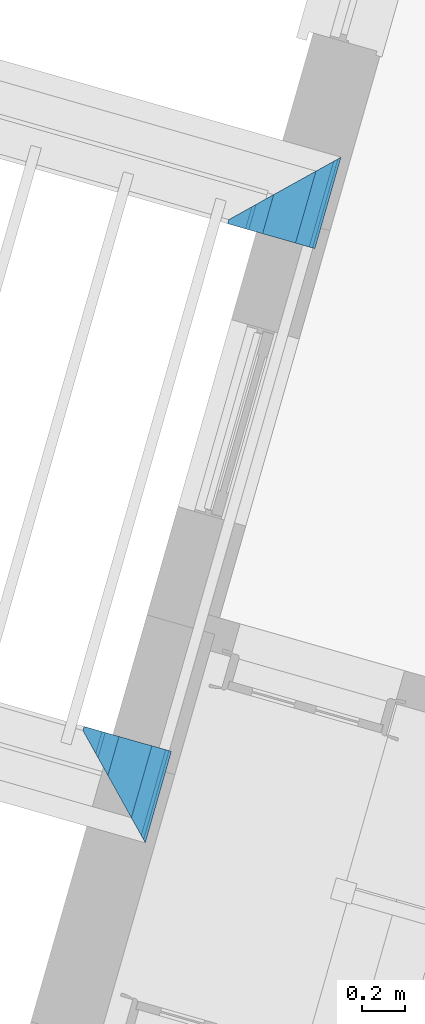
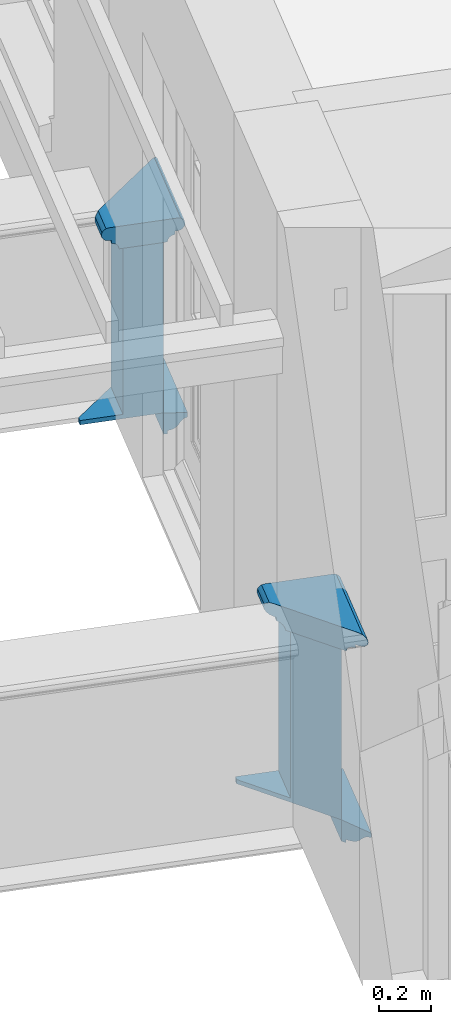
# One storey, part 5 of 6: 6 walls.
"""IFC4 building model written with IfcOpenShell, lengths in metres."""

from ifc_helpers import new_model, si_unit, frame, origin_with_axes, place, context, subcontext, project, spatial, polyline, outline, extrude, clip, halfspace, material_profile, profile_set, profile_usage, type_object, element, save


model = new_model("IFC4")

# Units and contexts
model_context = context("Model", 3, world=origin_with_axes())
body_context = subcontext(model_context, "Body", "Model", "MODEL_VIEW")
ifc_project = project(units=[si_unit("PLANEANGLEUNIT", "RADIAN"), si_unit("MASSUNIT", "GRAM", prefix="KILO"), si_unit("FORCEUNIT", "NEWTON", prefix="KILO"), si_unit("LENGTHUNIT", "METRE"), si_unit("AREAUNIT", "SQUARE_METRE"), si_unit("VOLUMEUNIT", "CUBIC_METRE")], contexts=[model_context, model_context])

# Sites, building, storey
site_1_placement = place(None, origin_with_axes())
site_1 = spatial("IfcSite", under=ifc_project, at=site_1_placement, Name="Tamar")
site_2_placement = place(site_1_placement, origin_with_axes())
site_2 = spatial("IfcSite", under=site_1, at=site_2_placement, Name="Site plot-20", CompositionType="ELEMENT")
building_placement = place(None, origin_with_axes())
building = spatial("IfcBuilding", under=site_2, at=building_placement, Name="Building plot-20", CompositionType="ELEMENT")
storey_placement = place(None, frame((0.0, 0.0, 29.15), z_axis=(0.0, 0.0, 1.0), x_axis=(1.0, 0.0, 0.0)))
storey = spatial("IfcBuildingStorey", under=building, at=storey_placement, Name="plot-20 1", CompositionType="ELEMENT", Elevation=29.15)

# Walls
ifc_material_profile_1 = material_profile(None, outline(polyline([(0.25, 0.0), (0.25, 0.795), (0.09, 0.795), (0.09, 0.02), (-0.08, 0.02), (-0.08, 0.0), (0.25, 0.0)])))
ifc_profile_set_1 = profile_set([ifc_material_profile_1])
ifc_profile_usage_1 = profile_usage(ifc_profile_set_1)
wall_type_1 = type_object("IfcWallType", Name="parapet_0", PredefinedType="PARAPET", material=ifc_profile_set_1)
wall_1_placement = place(storey_placement, frame((278.102832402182, 292.387302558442, 0.0), z_axis=(-0.274568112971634, -0.961567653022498, 0.0), x_axis=(0.961567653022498, -0.274568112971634, 0.0)))
element("IfcWall", 1, at=wall_1_placement, inside=storey, type_object=wall_type_1, material=ifc_profile_usage_1, Name="parapet_0", context=body_context, shape_type="Clipping", body=[
    clip(clip(extrude(outline(polyline([(0.25, 0.0), (0.25, 0.795), (0.09, 0.795), (0.09, 0.02), (-0.08, 0.02), (-0.08, 0.0), (0.25, 0.0)])), origin_with_axes(), (0.0, 0.0, 1.0), 2.09999999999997), halfspace(frame((0.0, 0.0, 1.09999999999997), z_axis=(-7.83279351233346e-15, 0.0, -1.0), x_axis=(0.0, 1.0, 0.0)), True)), halfspace(frame((0.0, 0.0, 1.0), z_axis=(-0.707106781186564, 0.0, -0.707106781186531), x_axis=(0.0, 1.0, 0.0)), False)),
])
ifc_profile_usage_2 = profile_usage(ifc_profile_set_1)
wall_2_placement = place(storey_placement, frame((277.403952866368, 289.93974975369, 0.0), z_axis=(-0.274568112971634, -0.961567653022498, 0.0), x_axis=(0.961567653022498, -0.274568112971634, 0.0)))
element("IfcWall", 2, at=wall_2_placement, inside=storey, type_object=wall_type_1, material=ifc_profile_usage_2, Name="parapet_0", context=body_context, shape_type="Clipping", body=[
    clip(clip(extrude(outline(polyline([(0.25, 0.0), (0.25, 0.795), (0.09, 0.795), (0.09, 0.02), (-0.08, 0.02), (-0.08, 0.0), (0.25, 0.0)])), origin_with_axes(), (0.0, 0.0, 1.0), 2.09999999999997), halfspace(frame((0.0, 0.0, 1.09999999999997), z_axis=(0.707106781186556, 0.0, -0.707106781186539), x_axis=(0.0, 1.0, 0.0)), True)), halfspace(frame((0.0, 0.0, 1.0), z_axis=(-7.83279351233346e-15, 0.0, -1.0), x_axis=(0.0, 1.0, 0.0)), False)),
])
ifc_material_profile_2 = material_profile(None, outline(polyline([(0.265, 0.795), (0.268, 0.807), (0.274, 0.816), (0.283, 0.822), (0.295, 0.825), (0.295, 0.84), (0.305, 0.84), (0.317, 0.842), (0.326, 0.849), (0.333, 0.858), (0.335, 0.87), (0.333, 0.882), (0.326, 0.891), (0.317, 0.898), (0.305, 0.9), (0.035, 0.9), (0.023, 0.898), (0.014, 0.891), (0.007, 0.882), (0.005, 0.87), (0.007, 0.858), (0.014, 0.849), (0.023, 0.842), (0.035, 0.84), (0.045, 0.84), (0.045, 0.825), (0.057, 0.822), (0.066, 0.816), (0.072, 0.807), (0.075, 0.795), (0.265, 0.795)])))
ifc_profile_set_2 = profile_set([ifc_material_profile_2])
ifc_profile_usage_3 = profile_usage(ifc_profile_set_2)
wall_type_2 = type_object("IfcWallType", Name="parapet_1", PredefinedType="PARAPET", material=ifc_profile_set_2)
wall_3_placement = place(storey_placement, frame((278.102832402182, 292.387302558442, 0.0), z_axis=(-0.274568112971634, -0.961567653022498, 0.0), x_axis=(0.961567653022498, -0.274568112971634, 0.0)))
element("IfcWall", 3, at=wall_3_placement, inside=storey, type_object=wall_type_2, material=ifc_profile_usage_3, Name="parapet_1", context=body_context, shape_type="Clipping", body=[
    clip(clip(extrude(outline(polyline([(0.265, 0.795), (0.268, 0.807), (0.274, 0.816), (0.283, 0.822), (0.295, 0.825), (0.295, 0.84), (0.305, 0.84), (0.317, 0.842), (0.326, 0.849), (0.333, 0.858), (0.335, 0.87), (0.333, 0.882), (0.326, 0.891), (0.317, 0.898), (0.305, 0.9), (0.035, 0.9), (0.023, 0.898), (0.014, 0.891), (0.007, 0.882), (0.005, 0.87), (0.007, 0.858), (0.014, 0.849), (0.023, 0.842), (0.035, 0.84), (0.045, 0.84), (0.045, 0.825), (0.057, 0.822), (0.066, 0.816), (0.072, 0.807), (0.075, 0.795), (0.265, 0.795)])), origin_with_axes(), (0.0, 0.0, 1.0), 2.09999999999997), halfspace(frame((0.0, 0.0, 1.09999999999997), z_axis=(-7.83279351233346e-15, 0.0, -1.0), x_axis=(0.0, 1.0, 0.0)), True)), halfspace(frame((0.0, 0.0, 1.0), z_axis=(-0.707106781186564, 0.0, -0.707106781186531), x_axis=(0.0, 1.0, 0.0)), False)),
])
ifc_profile_usage_4 = profile_usage(ifc_profile_set_2)
wall_4_placement = place(storey_placement, frame((277.403952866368, 289.93974975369, 0.0), z_axis=(-0.274568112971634, -0.961567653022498, 0.0), x_axis=(0.961567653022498, -0.274568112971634, 0.0)))
element("IfcWall", 4, at=wall_4_placement, inside=storey, type_object=wall_type_2, material=ifc_profile_usage_4, Name="parapet_1", context=body_context, shape_type="Clipping", body=[
    clip(clip(extrude(outline(polyline([(0.265, 0.795), (0.268, 0.807), (0.274, 0.816), (0.283, 0.822), (0.295, 0.825), (0.295, 0.84), (0.305, 0.84), (0.317, 0.842), (0.326, 0.849), (0.333, 0.858), (0.335, 0.87), (0.333, 0.882), (0.326, 0.891), (0.317, 0.898), (0.305, 0.9), (0.035, 0.9), (0.023, 0.898), (0.014, 0.891), (0.007, 0.882), (0.005, 0.87), (0.007, 0.858), (0.014, 0.849), (0.023, 0.842), (0.035, 0.84), (0.045, 0.84), (0.045, 0.825), (0.057, 0.822), (0.066, 0.816), (0.072, 0.807), (0.075, 0.795), (0.265, 0.795)])), origin_with_axes(), (0.0, 0.0, 1.0), 2.09999999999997), halfspace(frame((0.0, 0.0, 1.09999999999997), z_axis=(0.707106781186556, 0.0, -0.707106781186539), x_axis=(0.0, 1.0, 0.0)), True)), halfspace(frame((0.0, 0.0, 1.0), z_axis=(-7.83279351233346e-15, 0.0, -1.0), x_axis=(0.0, 1.0, 0.0)), False)),
])
ifc_material_profile_3 = material_profile(None, outline(polyline([(0.25, -0.1), (0.265, -0.1), (0.265, -0.085), (0.278, -0.084), (0.289, -0.081), (0.301, -0.074), (0.309, -0.065), (0.315, -0.055), (0.324, -0.044), (0.334, -0.038), (0.345, -0.035), (0.345, -0.015), (0.25, 0.0), (0.25, -0.1)])))
ifc_profile_set_3 = profile_set([ifc_material_profile_3])
ifc_profile_usage_5 = profile_usage(ifc_profile_set_3)
wall_type_3 = type_object("IfcWallType", Name="parapet_2", PredefinedType="PARAPET", material=ifc_profile_set_3)
wall_5_placement = place(storey_placement, frame((278.102832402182, 292.387302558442, 0.0), z_axis=(-0.274568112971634, -0.961567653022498, 0.0), x_axis=(0.961567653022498, -0.274568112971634, 0.0)))
element("IfcWall", 5, at=wall_5_placement, inside=storey, type_object=wall_type_3, material=ifc_profile_usage_5, Name="parapet_2", context=body_context, shape_type="Clipping", body=[
    clip(clip(extrude(outline(polyline([(0.25, -0.1), (0.265, -0.1), (0.265, -0.085), (0.278, -0.084), (0.289, -0.081), (0.301, -0.074), (0.309, -0.065), (0.315, -0.055), (0.324, -0.044), (0.334, -0.038), (0.345, -0.035), (0.345, -0.015), (0.25, 0.0), (0.25, -0.1)])), origin_with_axes(), (0.0, 0.0, 1.0), 2.09999999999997), halfspace(frame((0.0, 0.0, 1.09999999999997), z_axis=(-7.83279351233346e-15, 0.0, -1.0), x_axis=(0.0, 1.0, 0.0)), True)), halfspace(frame((0.0, 0.0, 1.0), z_axis=(-0.707106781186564, 0.0, -0.707106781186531), x_axis=(0.0, 1.0, 0.0)), False)),
])
ifc_profile_usage_6 = profile_usage(ifc_profile_set_3)
wall_6_placement = place(storey_placement, frame((277.403952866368, 289.93974975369, 0.0), z_axis=(-0.274568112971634, -0.961567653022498, 0.0), x_axis=(0.961567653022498, -0.274568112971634, 0.0)))
element("IfcWall", 6, at=wall_6_placement, inside=storey, type_object=wall_type_3, material=ifc_profile_usage_6, Name="parapet_2", context=body_context, shape_type="Clipping", body=[
    clip(clip(extrude(outline(polyline([(0.25, -0.1), (0.265, -0.1), (0.265, -0.085), (0.278, -0.084), (0.289, -0.081), (0.301, -0.074), (0.309, -0.065), (0.315, -0.055), (0.324, -0.044), (0.334, -0.038), (0.345, -0.035), (0.345, -0.015), (0.25, 0.0), (0.25, -0.1)])), origin_with_axes(), (0.0, 0.0, 1.0), 2.09999999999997), halfspace(frame((0.0, 0.0, 1.09999999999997), z_axis=(0.707106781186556, 0.0, -0.707106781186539), x_axis=(0.0, 1.0, 0.0)), True)), halfspace(frame((0.0, 0.0, 1.0), z_axis=(-7.83279351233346e-15, 0.0, -1.0), x_axis=(0.0, 1.0, 0.0)), False)),
])

save(model, "model.ifc")
